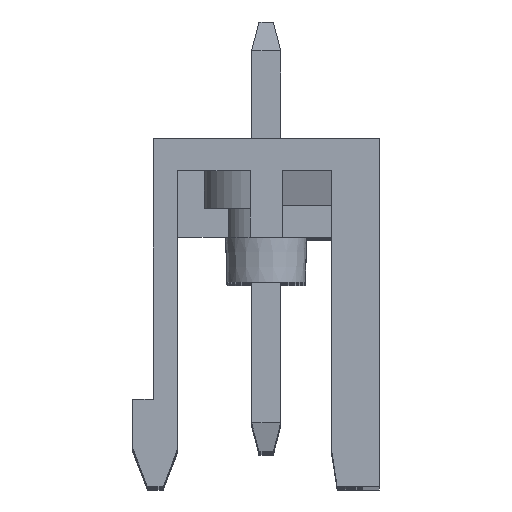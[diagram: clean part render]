
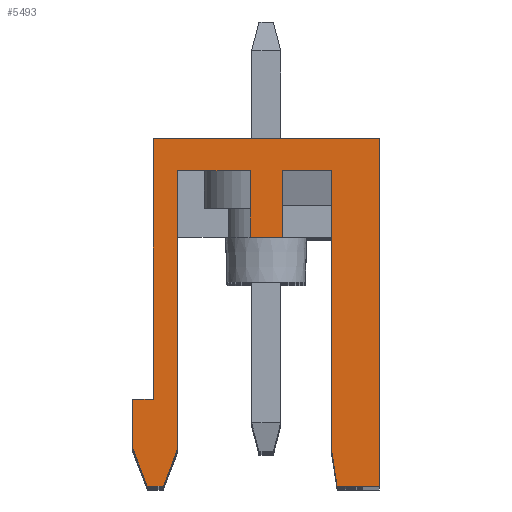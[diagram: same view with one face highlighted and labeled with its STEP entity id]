
A CAD part, top view. The second image highlights one B-rep face of the part: STEP entity #5493.
In plain terms, the highlighted planar face has unit normal (0, 0, 1).
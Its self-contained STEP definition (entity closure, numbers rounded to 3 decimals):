
#213 = ORIENTED_EDGE ( 'NONE', *, *, #22173, .T. ) ;
#467 = VERTEX_POINT ( 'NONE', #13713 ) ;
#965 = DIRECTION ( 'NONE',  ( -0.359, 0.933, 0. ) ) ;
#1044 = CARTESIAN_POINT ( 'NONE',  ( 0.55, 8.6, 71.12 ) ) ;
#1475 = CARTESIAN_POINT ( 'NONE',  ( -0.55, 10.9, 71.12 ) ) ;
#1621 = CARTESIAN_POINT ( 'NONE',  ( -3.9, 12., 71.12 ) ) ;
#1834 = EDGE_CURVE ( 'NONE', #6962, #32112, #5028, .T. ) ;
#1903 = LINE ( 'NONE', #12714, #24269 ) ;
#2074 = LINE ( 'NONE', #26536, #21039 ) ;
#2232 = VERTEX_POINT ( 'NONE', #2810 ) ;
#2257 = ORIENTED_EDGE ( 'NONE', *, *, #34663, .T. ) ;
#2810 = CARTESIAN_POINT ( 'NONE',  ( -4.6, 3., 71.12 ) ) ;
#2815 = VERTEX_POINT ( 'NONE', #6991 ) ;
#2905 = CARTESIAN_POINT ( 'NONE',  ( -0.55, 10.9, 71.12 ) ) ;
#3191 = AXIS2_PLACEMENT_3D ( 'NONE', #12701, #12350, #23179 ) ;
#3399 = VECTOR ( 'NONE', #6385, 1000. ) ;
#4238 = CARTESIAN_POINT ( 'NONE',  ( 2.25, 1.3, 71.12 ) ) ;
#4608 = LINE ( 'NONE', #28718, #19928 ) ;
#4945 = VERTEX_POINT ( 'NONE', #27831 ) ;
#5028 = LINE ( 'NONE', #26649, #20050 ) ;
#5217 = CARTESIAN_POINT ( 'NONE',  ( -3.05, 1.3, 71.12 ) ) ;
#5487 = VECTOR ( 'NONE', #965, 1000. ) ;
#5493 = ADVANCED_FACE ( 'NONE', ( #15014 ), #7210, .T. ) ;
#5530 = EDGE_CURVE ( 'NONE', #7761, #2815, #25490, .T. ) ;
#5574 = ORIENTED_EDGE ( 'NONE', *, *, #7926, .T. ) ;
#5957 = VERTEX_POINT ( 'NONE', #21652 ) ;
#6026 = DIRECTION ( 'NONE',  ( 1., 0., 0. ) ) ;
#6150 = VERTEX_POINT ( 'NONE', #14544 ) ;
#6385 = DIRECTION ( 'NONE',  ( -1., 0., 0. ) ) ;
#6848 = CARTESIAN_POINT ( 'NONE',  ( -3.05, 10.9, 71.12 ) ) ;
#6962 = VERTEX_POINT ( 'NONE', #25099 ) ;
#6991 = CARTESIAN_POINT ( 'NONE',  ( -0.55, 8.6, 71.12 ) ) ;
#7210 = PLANE ( 'NONE',  #3191 ) ;
#7761 = VERTEX_POINT ( 'NONE', #14508 ) ;
#7926 = EDGE_CURVE ( 'NONE', #6150, #11361, #1903, .T. ) ;
#8144 = VECTOR ( 'NONE', #15798, 1000. ) ;
#8583 = ORIENTED_EDGE ( 'NONE', *, *, #30064, .T. ) ;
#8656 = VECTOR ( 'NONE', #26009, 1000. ) ;
#8913 = EDGE_CURVE ( 'NONE', #11361, #28030, #30345, .T. ) ;
#9111 = LINE ( 'NONE', #25251, #5487 ) ;
#9112 = DIRECTION ( 'NONE',  ( 0.152, -0.988, 0. ) ) ;
#9723 = EDGE_CURVE ( 'NONE', #10539, #467, #20278, .T. ) ;
#10089 = EDGE_LOOP ( 'NONE', ( #11539, #5574, #14383, #16274, #213, #30482, #26098, #17043, #34914, #23119, #26774, #29548, #12631, #29412, #8583, #22038, #2257 ) ) ;
#10192 = LINE ( 'NONE', #20836, #12265 ) ;
#10476 = CARTESIAN_POINT ( 'NONE',  ( 2.45, 0., 71.12 ) ) ;
#10487 = EDGE_CURVE ( 'NONE', #15912, #6150, #14525, .T. ) ;
#10539 = VERTEX_POINT ( 'NONE', #4238 ) ;
#10643 = CARTESIAN_POINT ( 'NONE',  ( 0.55, 10.9, 71.12 ) ) ;
#10909 = VECTOR ( 'NONE', #6026, 1000. ) ;
#11361 = VERTEX_POINT ( 'NONE', #1621 ) ;
#11475 = CARTESIAN_POINT ( 'NONE',  ( -3.9, 3., 71.12 ) ) ;
#11539 = ORIENTED_EDGE ( 'NONE', *, *, #10487, .T. ) ;
#11732 = EDGE_CURVE ( 'NONE', #28030, #2232, #30662, .T. ) ;
#11978 = CARTESIAN_POINT ( 'NONE',  ( 0.55, 10.9, 71.12 ) ) ;
#12265 = VECTOR ( 'NONE', #28815, 1000. ) ;
#12282 = DIRECTION ( 'NONE',  ( -1., 0., 0. ) ) ;
#12350 = DIRECTION ( 'NONE',  ( 0., 0., 1. ) ) ;
#12631 = ORIENTED_EDGE ( 'NONE', *, *, #17765, .T. ) ;
#12701 = CARTESIAN_POINT ( 'NONE',  ( -10.2, 16.267, 71.12 ) ) ;
#12714 = CARTESIAN_POINT ( 'NONE',  ( 3.9, 12., 71.12 ) ) ;
#12878 = DIRECTION ( 'NONE',  ( 0., -1., 0. ) ) ;
#13548 = VECTOR ( 'NONE', #9112, 1000. ) ;
#13713 = CARTESIAN_POINT ( 'NONE',  ( 2.45, 0., 71.12 ) ) ;
#14347 = VERTEX_POINT ( 'NONE', #11978 ) ;
#14383 = ORIENTED_EDGE ( 'NONE', *, *, #8913, .T. ) ;
#14508 = CARTESIAN_POINT ( 'NONE',  ( -0.55, 10.9, 71.12 ) ) ;
#14525 = LINE ( 'NONE', #24821, #17468 ) ;
#14544 = CARTESIAN_POINT ( 'NONE',  ( 3.9, 12., 71.12 ) ) ;
#14880 = CARTESIAN_POINT ( 'NONE',  ( -3.9, 3., 71.12 ) ) ;
#15014 = FACE_OUTER_BOUND ( 'NONE', #10089, .T. ) ;
#15482 = DIRECTION ( 'NONE',  ( 1., 0., 0. ) ) ;
#15643 = LINE ( 'NONE', #26813, #31494 ) ;
#15798 = DIRECTION ( 'NONE',  ( 0., 1., 0. ) ) ;
#15912 = VERTEX_POINT ( 'NONE', #24905 ) ;
#15960 = LINE ( 'NONE', #10643, #10909 ) ;
#16274 = ORIENTED_EDGE ( 'NONE', *, *, #11732, .T. ) ;
#16869 = CARTESIAN_POINT ( 'NONE',  ( -3.9, 12., 71.12 ) ) ;
#17043 = ORIENTED_EDGE ( 'NONE', *, *, #29335, .F. ) ;
#17468 = VECTOR ( 'NONE', #25344, 1000. ) ;
#17765 = EDGE_CURVE ( 'NONE', #30297, #14347, #21646, .T. ) ;
#17850 = CARTESIAN_POINT ( 'NONE',  ( 0.55, 8.6, 71.12 ) ) ;
#18147 = CARTESIAN_POINT ( 'NONE',  ( -3.55, 0., 71.12 ) ) ;
#19711 = DIRECTION ( 'NONE',  ( 0., -1., 0. ) ) ;
#19928 = VECTOR ( 'NONE', #20392, 1000. ) ;
#20050 = VECTOR ( 'NONE', #15482, 1000. ) ;
#20225 = VECTOR ( 'NONE', #23429, 1000. ) ;
#20278 = LINE ( 'NONE', #25076, #13548 ) ;
#20392 = DIRECTION ( 'NONE',  ( 0., -1., 0. ) ) ;
#20680 = LINE ( 'NONE', #17850, #8656 ) ;
#20836 = CARTESIAN_POINT ( 'NONE',  ( -3.05, 10.9, 71.12 ) ) ;
#21039 = VECTOR ( 'NONE', #34868, 1000. ) ;
#21646 = LINE ( 'NONE', #32466, #8144 ) ;
#21652 = CARTESIAN_POINT ( 'NONE',  ( -4.6, 1.3, 71.12 ) ) ;
#22038 = ORIENTED_EDGE ( 'NONE', *, *, #9723, .T. ) ;
#22173 = EDGE_CURVE ( 'NONE', #2232, #5957, #15643, .T. ) ;
#22719 = EDGE_CURVE ( 'NONE', #25924, #23800, #10192, .T. ) ;
#22998 = EDGE_CURVE ( 'NONE', #6962, #5957, #9111, .T. ) ;
#23019 = DIRECTION ( 'NONE',  ( -1., 0., 0. ) ) ;
#23119 = ORIENTED_EDGE ( 'NONE', *, *, #25175, .F. ) ;
#23179 = DIRECTION ( 'NONE',  ( 1., 0., 0. ) ) ;
#23429 = DIRECTION ( 'NONE',  ( 1., 0., 0. ) ) ;
#23800 = VERTEX_POINT ( 'NONE', #5217 ) ;
#24269 = VECTOR ( 'NONE', #23019, 1000. ) ;
#24821 = CARTESIAN_POINT ( 'NONE',  ( 3.9, 0., 71.12 ) ) ;
#24905 = CARTESIAN_POINT ( 'NONE',  ( 3.9, 0., 71.12 ) ) ;
#25076 = CARTESIAN_POINT ( 'NONE',  ( 2.25, 1.3, 71.12 ) ) ;
#25099 = CARTESIAN_POINT ( 'NONE',  ( -4.1, 0., 71.12 ) ) ;
#25175 = EDGE_CURVE ( 'NONE', #7761, #25924, #33220, .T. ) ;
#25251 = CARTESIAN_POINT ( 'NONE',  ( -4.1, 0., 71.12 ) ) ;
#25344 = DIRECTION ( 'NONE',  ( 0., 1., 0. ) ) ;
#25434 = VECTOR ( 'NONE', #12282, 1000. ) ;
#25490 = LINE ( 'NONE', #2905, #30919 ) ;
#25924 = VERTEX_POINT ( 'NONE', #6848 ) ;
#26009 = DIRECTION ( 'NONE',  ( -1., 0., 0. ) ) ;
#26098 = ORIENTED_EDGE ( 'NONE', *, *, #1834, .T. ) ;
#26458 = DIRECTION ( 'NONE',  ( 0., -1., 0. ) ) ;
#26536 = CARTESIAN_POINT ( 'NONE',  ( -3.05, 1.3, 71.12 ) ) ;
#26649 = CARTESIAN_POINT ( 'NONE',  ( -4.1, 0., 71.12 ) ) ;
#26774 = ORIENTED_EDGE ( 'NONE', *, *, #5530, .T. ) ;
#26813 = CARTESIAN_POINT ( 'NONE',  ( -4.6, 3., 71.12 ) ) ;
#27665 = VECTOR ( 'NONE', #19711, 1000. ) ;
#27831 = CARTESIAN_POINT ( 'NONE',  ( 2.25, 10.9, 71.12 ) ) ;
#28030 = VERTEX_POINT ( 'NONE', #11475 ) ;
#28718 = CARTESIAN_POINT ( 'NONE',  ( 2.25, 10.9, 71.12 ) ) ;
#28815 = DIRECTION ( 'NONE',  ( 0., -1., 0. ) ) ;
#29335 = EDGE_CURVE ( 'NONE', #23800, #32112, #2074, .T. ) ;
#29412 = ORIENTED_EDGE ( 'NONE', *, *, #30993, .T. ) ;
#29548 = ORIENTED_EDGE ( 'NONE', *, *, #32794, .F. ) ;
#30064 = EDGE_CURVE ( 'NONE', #4945, #10539, #4608, .T. ) ;
#30297 = VERTEX_POINT ( 'NONE', #1044 ) ;
#30345 = LINE ( 'NONE', #16869, #27665 ) ;
#30482 = ORIENTED_EDGE ( 'NONE', *, *, #22998, .F. ) ;
#30662 = LINE ( 'NONE', #14880, #3399 ) ;
#30919 = VECTOR ( 'NONE', #12878, 1000. ) ;
#30993 = EDGE_CURVE ( 'NONE', #14347, #4945, #15960, .T. ) ;
#31494 = VECTOR ( 'NONE', #26458, 1000. ) ;
#32112 = VERTEX_POINT ( 'NONE', #18147 ) ;
#32466 = CARTESIAN_POINT ( 'NONE',  ( 0.55, 8.6, 71.12 ) ) ;
#32794 = EDGE_CURVE ( 'NONE', #30297, #2815, #20680, .T. ) ;
#33220 = LINE ( 'NONE', #1475, #25434 ) ;
#34663 = EDGE_CURVE ( 'NONE', #467, #15912, #34776, .T. ) ;
#34776 = LINE ( 'NONE', #10476, #20225 ) ;
#34868 = DIRECTION ( 'NONE',  ( -0.359, -0.933, 0. ) ) ;
#34914 = ORIENTED_EDGE ( 'NONE', *, *, #22719, .F. ) ;
